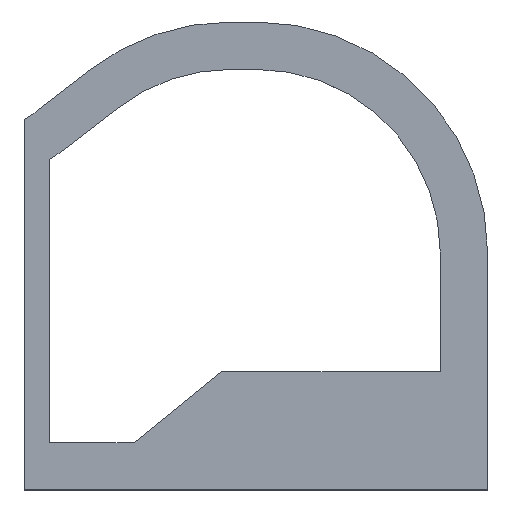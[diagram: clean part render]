
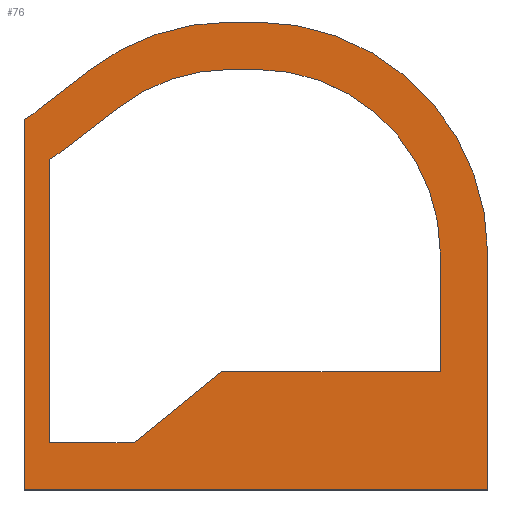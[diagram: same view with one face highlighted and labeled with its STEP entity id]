
A CAD part, top view. The second image highlights one B-rep face of the part: STEP entity #76.
In plain terms, the highlighted planar face has unit normal (0, 0, 1).
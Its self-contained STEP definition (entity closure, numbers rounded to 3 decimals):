
#76=ADVANCED_FACE('',(#252,#254),#256,.T.);
#252=FACE_BOUND('',#253,.T.);
#253=EDGE_LOOP('',(#390,#391,#392,#393,#394,#395,#396,#397));
#254=FACE_BOUND('',#255,.T.);
#255=EDGE_LOOP('',(#398,#399,#400,#401,#402,#403,#404,#405,#406,#407));
#256=PLANE('',#257);
#257=AXIS2_PLACEMENT_3D('',#258,#259,#260);
#258=CARTESIAN_POINT('',(0.,0.,0.6));
#259=DIRECTION('',(0.,0.,1.));
#260=DIRECTION('',(1.,0.,0.));
#390=ORIENTED_EDGE('',*,*,#498,.T.);
#391=ORIENTED_EDGE('',*,*,#499,.T.);
#392=ORIENTED_EDGE('',*,*,#493,.T.);
#393=ORIENTED_EDGE('',*,*,#500,.T.);
#394=ORIENTED_EDGE('',*,*,#501,.T.);
#395=ORIENTED_EDGE('',*,*,#502,.T.);
#396=ORIENTED_EDGE('',*,*,#503,.T.);
#397=ORIENTED_EDGE('',*,*,#495,.T.);
#398=ORIENTED_EDGE('',*,*,#504,.T.);
#399=ORIENTED_EDGE('',*,*,#505,.T.);
#400=ORIENTED_EDGE('',*,*,#506,.T.);
#401=ORIENTED_EDGE('',*,*,#507,.T.);
#402=ORIENTED_EDGE('',*,*,#508,.T.);
#403=ORIENTED_EDGE('',*,*,#509,.T.);
#404=ORIENTED_EDGE('',*,*,#510,.T.);
#405=ORIENTED_EDGE('',*,*,#511,.T.);
#406=ORIENTED_EDGE('',*,*,#512,.T.);
#407=ORIENTED_EDGE('',*,*,#513,.T.);
#493=EDGE_CURVE('',#544,#549,#551,.F.);
#495=EDGE_CURVE('',#555,#553,#556,.F.);
#498=EDGE_CURVE('',#553,#560,#561,.F.);
#499=EDGE_CURVE('',#560,#544,#562,.F.);
#500=EDGE_CURVE('',#549,#563,#564,.F.);
#501=EDGE_CURVE('',#563,#565,#566,.F.);
#502=EDGE_CURVE('',#565,#567,#568,.F.);
#503=EDGE_CURVE('',#567,#555,#569,.F.);
#504=EDGE_CURVE('',#570,#571,#572,.T.);
#505=EDGE_CURVE('',#571,#573,#574,.T.);
#506=EDGE_CURVE('',#573,#575,#576,.T.);
#507=EDGE_CURVE('',#575,#577,#578,.T.);
#508=EDGE_CURVE('',#577,#579,#580,.T.);
#509=EDGE_CURVE('',#579,#581,#582,.T.);
#510=EDGE_CURVE('',#581,#583,#584,.T.);
#511=EDGE_CURVE('',#583,#585,#586,.T.);
#512=EDGE_CURVE('',#585,#587,#588,.T.);
#513=EDGE_CURVE('',#587,#570,#589,.T.);
#544=VERTEX_POINT('',#634);
#549=VERTEX_POINT('',#643);
#551=LINE('',#647,#648);
#553=VERTEX_POINT('',#651);
#555=VERTEX_POINT('',#655);
#556=CIRCLE('',#656,42.);
#560=VERTEX_POINT('',#668);
#561=LINE('',#669,#670);
#562=LINE('',#672,#673);
#563=VERTEX_POINT('',#675);
#564=CIRCLE('',#676,78.);
#565=VERTEX_POINT('',#680);
#566=LINE('',#681,#682);
#567=VERTEX_POINT('',#684);
#568=CIRCLE('',#685,78.);
#569=LINE('',#689,#690);
#570=VERTEX_POINT('',#692);
#571=VERTEX_POINT('',#693);
#572=CIRCLE('',#694,58.);
#573=VERTEX_POINT('',#698);
#574=LINE('',#699,#700);
#575=VERTEX_POINT('',#702);
#576=CIRCLE('',#703,62.);
#577=VERTEX_POINT('',#707);
#578=LINE('',#708,#709);
#579=VERTEX_POINT('',#711);
#580=CIRCLE('',#712,62.);
#581=VERTEX_POINT('',#716);
#582=LINE('',#717,#718);
#583=VERTEX_POINT('',#720);
#584=LINE('',#721,#722);
#585=VERTEX_POINT('',#724);
#586=LINE('',#725,#726);
#587=VERTEX_POINT('',#728);
#588=LINE('',#729,#730);
#589=LINE('',#732,#733);
#634=CARTESIAN_POINT('',(-2.,0.,0.6));
#643=CARTESIAN_POINT('',(-2.,80.,0.6));
#647=CARTESIAN_POINT('',(-2.,80.,0.6));
#648=VECTOR('',#649,1.);
#649=DIRECTION('',(0.,-1.,0.));
#651=CARTESIAN_POINT('',(-158.436,125.126,0.6));
#655=CARTESIAN_POINT('',(-154.384,127.894,0.6));
#656=AXIS2_PLACEMENT_3D('',#657,#658,#659);
#657=CARTESIAN_POINT('',(-180.062,161.13,0.6));
#658=DIRECTION('',(-0.,0.,1.));
#659=DIRECTION('',(0.515,-0.857,0.));
#668=CARTESIAN_POINT('',(-158.436,0.,0.6));
#669=CARTESIAN_POINT('',(-158.436,0.,0.6));
#670=VECTOR('',#671,1.);
#671=DIRECTION('',(0.,1.,0.));
#672=CARTESIAN_POINT('',(-2.,0.,0.6));
#673=VECTOR('',#674,1.);
#674=DIRECTION('',(-1.,0.,0.));
#675=CARTESIAN_POINT('',(-80.,158.,0.6));
#676=AXIS2_PLACEMENT_3D('',#677,#678,#679);
#677=CARTESIAN_POINT('',(-80.,80.,0.6));
#678=DIRECTION('',(0.,0.,-1.));
#679=DIRECTION('',(0.,1.,0.));
#680=CARTESIAN_POINT('',(-88.795,158.,0.6));
#681=CARTESIAN_POINT('',(-88.795,158.,0.6));
#682=VECTOR('',#683,1.);
#683=DIRECTION('',(1.,0.,0.));
#684=CARTESIAN_POINT('',(-136.483,141.725,0.6));
#685=AXIS2_PLACEMENT_3D('',#686,#687,#688);
#686=CARTESIAN_POINT('',(-88.795,80.,0.6));
#687=DIRECTION('',(0.,0.,-1.));
#688=DIRECTION('',(-0.611,0.791,0.));
#689=CARTESIAN_POINT('',(-154.384,127.894,0.6));
#690=VECTOR('',#691,1.);
#691=DIRECTION('',(0.791,0.611,0.));
#692=CARTESIAN_POINT('',(-150.,111.529,0.6));
#693=CARTESIAN_POINT('',(-144.602,115.233,0.6));
#694=AXIS2_PLACEMENT_3D('',#695,#696,#697);
#695=CARTESIAN_POINT('',(-180.062,161.13,0.6));
#696=DIRECTION('',(0.,0.,1.));
#697=DIRECTION('',(0.518,-0.855,0.));
#698=CARTESIAN_POINT('',(-126.701,129.063,0.6));
#699=CARTESIAN_POINT('',(-144.602,115.233,0.6));
#700=VECTOR('',#701,1.);
#701=DIRECTION('',(0.791,0.611,0.));
#702=CARTESIAN_POINT('',(-88.795,142.,0.6));
#703=AXIS2_PLACEMENT_3D('',#704,#705,#706);
#704=CARTESIAN_POINT('',(-88.795,80.,0.6));
#705=DIRECTION('',(0.,0.,-1.));
#706=DIRECTION('',(-0.611,0.791,0.));
#707=CARTESIAN_POINT('',(-80.,142.,0.6));
#708=CARTESIAN_POINT('',(-88.795,142.,0.6));
#709=VECTOR('',#710,1.);
#710=DIRECTION('',(1.,0.,0.));
#711=CARTESIAN_POINT('',(-18.,80.,0.6));
#712=AXIS2_PLACEMENT_3D('',#713,#714,#715);
#713=CARTESIAN_POINT('',(-80.,80.,0.6));
#714=DIRECTION('',(0.,0.,-1.));
#715=DIRECTION('',(0.,1.,0.));
#716=CARTESIAN_POINT('',(-18.,40.,0.6));
#717=CARTESIAN_POINT('',(-18.,80.,0.6));
#718=VECTOR('',#719,1.);
#719=DIRECTION('',(0.,-1.,0.));
#720=CARTESIAN_POINT('',(-91.78,40.,0.6));
#721=CARTESIAN_POINT('',(-18.,40.,0.6));
#722=VECTOR('',#723,1.);
#723=DIRECTION('',(-1.,0.,0.));
#724=CARTESIAN_POINT('',(-121.343,16.,0.6));
#725=CARTESIAN_POINT('',(-91.78,40.,0.6));
#726=VECTOR('',#727,1.);
#727=DIRECTION('',(-0.776,-0.63,0.));
#728=CARTESIAN_POINT('',(-150.,16.,0.6));
#729=CARTESIAN_POINT('',(-121.343,16.,0.6));
#730=VECTOR('',#731,1.);
#731=DIRECTION('',(-1.,0.,0.));
#732=CARTESIAN_POINT('',(-150.,16.,0.6));
#733=VECTOR('',#734,1.);
#734=DIRECTION('',(0.,1.,0.));
